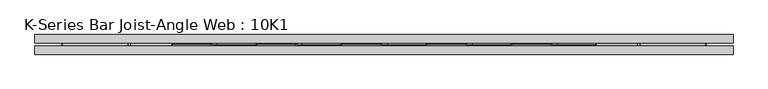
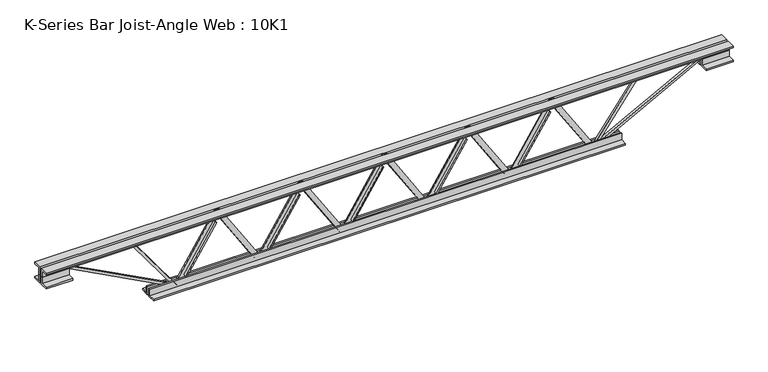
"""IFC4 building model written with IfcOpenShell, lengths in millimetres: beam geometry, K-Series Bar Joist-Angle Web : 10K1."""

from ifc_helpers import new_model, si_unit, frame, origin, place, context, project, spatial, polyline, outline, extrude, faceted_brep, source, transform, mapped, element, save


def k_series_bar_joist_angle_web_10k1_3bfde562(model_context):
    return source(origin(), model_context, "Body", "SolidModel", [
        extrude(outline(polyline([(-4.7625, 4.7625), (-4.7625, 0.0), (-17.4625, 0.0), (-17.4625, 4.7625), (-4.7625, 4.7625)])), frame((439.6388684, 0.0, -88.9), z_axis=(-0.5358887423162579, 0.0, 0.8442886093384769), x_axis=(0.0, -1.0, 0.0)), (0.0, 0.0, 1.0), 210.5914945),
        extrude(outline(polyline([(-123.825, 473.3925), (-104.775, 473.3925), (-104.775, 472.278458), (123.825, 327.180958), (123.825, 309.245), (104.775, 309.245), (104.775, 316.709042), (-123.825, 461.806542), (-123.825, 473.3925)])), frame((0.0, 0.0, 0.0), z_axis=(0.0, 1.0, 0.0), x_axis=(0.0, 0.0, 1.0)), (0.0, 0.0, 1.0), 4.7625),
        faceted_brep([(157.7975, 0.0, -104.775), (157.7975, 0.0, -123.825), (157.7975, -4.7625, -123.825), (157.7975, -4.7625, -104.775), (158.911542, 0.0, -104.775), (304.009042, 0.0, 123.825), (321.945, 0.0, 123.825), (321.945, 0.0, 104.775), (314.480958, 0.0, 104.775), (169.383458, 0.0, -123.825), (169.383458, -4.7625, -123.825), (191.5511316, -4.7625, -88.9), (187.5302071, -4.7625, -86.3478299), (300.3838183, -4.7625, 91.4521701), (304.4047428, -4.7625, 88.9), (314.480958, -4.7625, 104.775), (321.945, -4.7625, 104.775), (321.945, -4.7625, 123.825), (304.009042, -4.7625, 123.825), (158.911542, -4.7625, -104.775), (304.4047428, -17.4625, 88.9), (191.5511316, -17.4625, -88.9), (187.5302071, -17.4625, -86.3478299), (300.3838183, -17.4625, 91.4521701)], [[[0, 1, 2, 3]], [[1, 0, 4, 5, 6, 7, 8, 9]], [[2, 1, 9, 10]], [[3, 2, 10, 11, 12, 13, 14, 15, 16, 17, 18, 19]], [[0, 3, 19, 4]], [[9, 8, 15, 14, 20, 21, 11, 10]], [[5, 4, 19, 18]], [[7, 6, 17, 16]], [[8, 7, 16, 15]], [[6, 5, 18, 17]], [[21, 22, 12, 11]], [[20, 14, 13, 23]], [[22, 21, 20, 23]], [[12, 22, 23, 13]]]),
        extrude(outline(polyline([(-4.7625, 4.7625), (-4.7625, 0.0), (-17.4625, 0.0), (-17.4625, 4.7625), (-4.7625, 4.7625)])), frame((124.0438684, 0.0, -88.9), z_axis=(-0.5358887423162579, 0.0, 0.8442886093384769), x_axis=(0.0, -1.0, 0.0)), (0.0, 0.0, 1.0), 210.5914945),
        extrude(outline(polyline([(-123.825, 157.7975), (-104.775, 157.7975), (-104.775, 156.683458), (123.825, 11.585958), (123.825, -6.35), (104.775, -6.35), (104.775, 1.114042), (-123.825, 146.211542), (-123.825, 157.7975)])), frame((0.0, 0.0, 0.0), z_axis=(0.0, 1.0, 0.0), x_axis=(0.0, 0.0, 1.0)), (0.0, 0.0, 1.0), 4.7625),
        faceted_brep([(-157.7975, 0.0, -104.775), (-157.7975, 0.0, -123.825), (-157.7975, -4.7625, -123.825), (-157.7975, -4.7625, -104.775), (-156.683458, 0.0, -104.775), (-11.585958, 0.0, 123.825), (6.35, 0.0, 123.825), (6.35, 0.0, 104.775), (-1.114042, 0.0, 104.775), (-146.211542, 0.0, -123.825), (-146.211542, -4.7625, -123.825), (-124.0438684, -4.7625, -88.9), (-128.0647929, -4.7625, -86.3478299), (-15.2111817, -4.7625, 91.4521701), (-11.1902572, -4.7625, 88.9), (-1.114042, -4.7625, 104.775), (6.35, -4.7625, 104.775), (6.35, -4.7625, 123.825), (-11.585958, -4.7625, 123.825), (-156.683458, -4.7625, -104.775), (-11.1902572, -17.4625, 88.9), (-124.0438684, -17.4625, -88.9), (-128.0647929, -17.4625, -86.3478299), (-15.2111817, -17.4625, 91.4521701)], [[[0, 1, 2, 3]], [[1, 0, 4, 5, 6, 7, 8, 9]], [[2, 1, 9, 10]], [[3, 2, 10, 11, 12, 13, 14, 15, 16, 17, 18, 19]], [[0, 3, 19, 4]], [[9, 8, 15, 14, 20, 21, 11, 10]], [[5, 4, 19, 18]], [[7, 6, 17, 16]], [[8, 7, 16, 15]], [[6, 5, 18, 17]], [[21, 22, 12, 11]], [[20, 14, 13, 23]], [[22, 21, 20, 23]], [[12, 22, 23, 13]]]),
        extrude(outline(polyline([(-4.7625, 4.7625), (-4.7625, 0.0), (-17.4625, 0.0), (-17.4625, 4.7625), (-4.7625, 4.7625)])), frame((-191.5511316, 0.0, -88.9), z_axis=(-0.5358887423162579, 0.0, 0.8442886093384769), x_axis=(0.0, -1.0, 0.0)), (0.0, 0.0, 1.0), 210.5914945),
        extrude(outline(polyline([(-123.825, -157.7975), (-104.775, -157.7975), (-104.775, -158.911542), (123.825, -304.009042), (123.825, -321.945), (104.775, -321.945), (104.775, -314.480958), (-123.825, -169.383458), (-123.825, -157.7975)])), frame((0.0, 0.0, 0.0), z_axis=(0.0, 1.0, 0.0), x_axis=(0.0, 0.0, 1.0)), (0.0, 0.0, 1.0), 4.7625),
        faceted_brep([(-473.3925, 0.0, -104.775), (-473.3925, 0.0, -123.825), (-473.3925, -4.7625, -123.825), (-473.3925, -4.7625, -104.775), (-472.278458, 0.0, -104.775), (-327.180958, 0.0, 123.825), (-309.245, 0.0, 123.825), (-309.245, 0.0, 104.775), (-316.709042, 0.0, 104.775), (-461.806542, 0.0, -123.825), (-461.806542, -4.7625, -123.825), (-439.6388684, -4.7625, -88.9), (-443.6597929, -4.7625, -86.3478299), (-330.8061817, -4.7625, 91.4521701), (-326.7852572, -4.7625, 88.9), (-316.709042, -4.7625, 104.775), (-309.245, -4.7625, 104.775), (-309.245, -4.7625, 123.825), (-327.180958, -4.7625, 123.825), (-472.278458, -4.7625, -104.775), (-326.7852572, -17.4625, 88.9), (-439.6388684, -17.4625, -88.9), (-443.6597929, -17.4625, -86.3478299), (-330.8061817, -17.4625, 91.4521701)], [[[0, 1, 2, 3]], [[1, 0, 4, 5, 6, 7, 8, 9]], [[2, 1, 9, 10]], [[3, 2, 10, 11, 12, 13, 14, 15, 16, 17, 18, 19]], [[0, 3, 19, 4]], [[9, 8, 15, 14, 20, 21, 11, 10]], [[5, 4, 19, 18]], [[7, 6, 17, 16]], [[8, 7, 16, 15]], [[6, 5, 18, 17]], [[21, 22, 12, 11]], [[20, 14, 13, 23]], [[22, 21, 20, 23]], [[12, 22, 23, 13]]]),
        extrude(outline(polyline([(-4.7625, 4.7625), (-4.7625, 0.0), (-17.4625, 0.0), (-17.4625, 4.7625), (-4.7625, 4.7625)])), frame((755.2338684, 0.0, -88.9), z_axis=(-0.5358887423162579, 0.0, 0.8442886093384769), x_axis=(0.0, -1.0, 0.0)), (0.0, 0.0, 1.0), 210.5914945),
        extrude(outline(polyline([(-123.825, 788.9875), (-104.775, 788.9875), (-104.775, 787.873458), (123.825, 642.775958), (123.825, 624.84), (104.775, 624.84), (104.775, 632.304042), (-123.825, 777.401542), (-123.825, 788.9875)])), frame((0.0, 0.0, 0.0), z_axis=(0.0, 1.0, 0.0), x_axis=(0.0, 0.0, 1.0)), (0.0, 0.0, 1.0), 4.7625),
        faceted_brep([(473.3925, 0.0, -104.775), (473.3925, 0.0, -123.825), (473.3925, -4.7625, -123.825), (473.3925, -4.7625, -104.775), (474.506542, 0.0, -104.775), (619.604042, 0.0, 123.825), (637.54, 0.0, 123.825), (637.54, 0.0, 104.775), (630.075958, 0.0, 104.775), (484.978458, 0.0, -123.825), (484.978458, -4.7625, -123.825), (507.1461316, -4.7625, -88.9), (503.1252071, -4.7625, -86.3478299), (615.9788183, -4.7625, 91.4521701), (619.9997428, -4.7625, 88.9), (630.075958, -4.7625, 104.775), (637.54, -4.7625, 104.775), (637.54, -4.7625, 123.825), (619.604042, -4.7625, 123.825), (474.506542, -4.7625, -104.775), (619.9997428, -17.4625, 88.9), (507.1461316, -17.4625, -88.9), (503.1252071, -17.4625, -86.3478299), (615.9788183, -17.4625, 91.4521701)], [[[0, 1, 2, 3]], [[1, 0, 4, 5, 6, 7, 8, 9]], [[2, 1, 9, 10]], [[3, 2, 10, 11, 12, 13, 14, 15, 16, 17, 18, 19]], [[0, 3, 19, 4]], [[9, 8, 15, 14, 20, 21, 11, 10]], [[5, 4, 19, 18]], [[7, 6, 17, 16]], [[8, 7, 16, 15]], [[6, 5, 18, 17]], [[21, 22, 12, 11]], [[20, 14, 13, 23]], [[22, 21, 20, 23]], [[12, 22, 23, 13]]]),
        extrude(outline(polyline([(-4.7625, 4.7625), (-4.7625, 0.0), (-17.4625, 0.0), (-17.4625, 4.7625), (-4.7625, 4.7625)])), frame((-507.1461316, 0.0, -88.9), z_axis=(-0.5358887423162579, 0.0, 0.8442886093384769), x_axis=(0.0, -1.0, 0.0)), (0.0, 0.0, 1.0), 210.5914945),
        extrude(outline(polyline([(-123.825, -473.3925), (-104.775, -473.3925), (-104.775, -474.506542), (123.825, -619.604042), (123.825, -637.54), (104.775, -637.54), (104.775, -630.075958), (-123.825, -484.978458), (-123.825, -473.3925)])), frame((0.0, 0.0, 0.0), z_axis=(0.0, 1.0, 0.0), x_axis=(0.0, 0.0, 1.0)), (0.0, 0.0, 1.0), 4.7625),
        faceted_brep([(-788.9875, 0.0, -104.775), (-788.9875, 0.0, -123.825), (-788.9875, -4.7625, -123.825), (-788.9875, -4.7625, -104.775), (-787.873458, 0.0, -104.775), (-642.775958, 0.0, 123.825), (-624.84, 0.0, 123.825), (-624.84, 0.0, 104.775), (-632.304042, 0.0, 104.775), (-777.401542, 0.0, -123.825), (-777.401542, -4.7625, -123.825), (-755.2338684, -4.7625, -88.9), (-759.2547929, -4.7625, -86.3478299), (-646.4011817, -4.7625, 91.4521701), (-642.3802572, -4.7625, 88.9), (-632.304042, -4.7625, 104.775), (-624.84, -4.7625, 104.775), (-624.84, -4.7625, 123.825), (-642.775958, -4.7625, 123.825), (-787.873458, -4.7625, -104.775), (-642.3802572, -17.4625, 88.9), (-755.2338684, -17.4625, -88.9), (-759.2547929, -17.4625, -86.3478299), (-646.4011817, -17.4625, 91.4521701)], [[[0, 1, 2, 3]], [[1, 0, 4, 5, 6, 7, 8, 9]], [[2, 1, 9, 10]], [[3, 2, 10, 11, 12, 13, 14, 15, 16, 17, 18, 19]], [[0, 3, 19, 4]], [[9, 8, 15, 14, 20, 21, 11, 10]], [[5, 4, 19, 18]], [[7, 6, 17, 16]], [[8, 7, 16, 15]], [[6, 5, 18, 17]], [[21, 22, 12, 11]], [[20, 14, 13, 23]], [[22, 21, 20, 23]], [[12, 22, 23, 13]]]),
        extrude(outline(polyline([(4.7625, 127.0), (36.5125, 127.0), (36.5125, 120.65), (11.1125, 120.65), (11.1125, 95.25), (4.7625, 95.25), (4.7625, 127.0)])), frame((-1296.9875, 0.0, 0.0), z_axis=(1.0, 0.0, 0.0), x_axis=(0.0, 1.0, 0.0)), (0.0, 0.0, 1.0), 2593.975),
        extrude(outline(polyline([(-4.7625, 127.0), (-4.7625, 95.25), (-11.1125, 95.25), (-11.1125, 120.65), (-36.5125, 120.65), (-36.5125, 127.0), (-4.7625, 127.0)])), frame((-1296.9875, 0.0, 0.0), z_axis=(1.0, 0.0, 0.0), x_axis=(0.0, 1.0, 0.0)), (0.0, 0.0, 1.0), 2593.975),
        extrude(outline(polyline([(4.7625, -127.0), (4.7625, -95.25), (11.1125, -95.25), (11.1125, -120.65), (36.5125, -120.65), (36.5125, -127.0), (4.7625, -127.0)])), frame((-890.5875, 0.0, 0.0), z_axis=(1.0, 0.0, 0.0), x_axis=(0.0, 1.0, 0.0)), (0.0, 0.0, 1.0), 1781.175),
        extrude(outline(polyline([(-4.7625, -127.0), (-36.5125, -127.0), (-36.5125, -120.65), (-11.1125, -120.65), (-11.1125, -95.25), (-4.7625, -95.25), (-4.7625, -127.0)])), frame((-890.5875, 0.0, 0.0), z_axis=(1.0, 0.0, 0.0), x_axis=(0.0, 1.0, 0.0)), (0.0, 0.0, 1.0), 1781.175),
        extrude(outline(polyline([(4.7625, 63.5), (4.7625, 95.25), (11.1125, 95.25), (11.1125, 69.85), (36.5125, 69.85), (36.5125, 63.5), (4.7625, 63.5)])), frame((1195.3875, 0.0, 0.0), z_axis=(1.0, 0.0, 0.0), x_axis=(0.0, 1.0, 0.0)), (0.0, 0.0, 1.0), 101.6),
        extrude(outline(polyline([(-4.7625, 63.5), (-36.5125, 63.5), (-36.5125, 69.85), (-11.1125, 69.85), (-11.1125, 95.25), (-4.7625, 95.25), (-4.7625, 63.5)])), frame((1195.3875, 0.0, 0.0), z_axis=(1.0, 0.0, 0.0), x_axis=(0.0, 1.0, 0.0)), (0.0, 0.0, 1.0), 101.6),
        extrude(outline(polyline([(-4.7625, 63.5), (-36.5125, 63.5), (-36.5125, 69.85), (-11.1125, 69.85), (-11.1125, 95.25), (-4.7625, 95.25), (-4.7625, 63.5)])), frame((-1296.9875, 0.0, 0.0), z_axis=(1.0, 0.0, 0.0), x_axis=(0.0, 1.0, 0.0)), (0.0, 0.0, 1.0), 101.6),
        extrude(outline(polyline([(36.5125, 63.5), (4.7625, 63.5), (4.7625, 95.25), (11.1125, 95.25), (11.1125, 69.85), (36.5125, 69.85), (36.5125, 63.5)])), frame((-1296.9875, 0.0, 0.0), z_axis=(1.0, 0.0, 0.0), x_axis=(0.0, 1.0, 0.0)), (0.0, 0.0, 1.0), 101.6),
        extrude(outline(polyline([(4.7625, 4.7625), (4.7625, -4.7625), (-4.7625, -4.7625), (-4.7625, 4.7625), (4.7625, 4.7625)])), frame((-788.9875, 0.0, -120.65), z_axis=(-0.5900761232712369, 0.0, 0.8073476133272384), x_axis=(0.0, -1.0, 0.0)), (0.0, 0.0, 1.0), 267.4188868),
        extrude(outline(polyline([(4.7625, 4.7625), (4.7625, -4.7625), (-4.7625, -4.7625), (-4.7625, 4.7625), (4.7625, 4.7625)])), frame((788.9875, 0.0, -120.65), z_axis=(0.5900761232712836, 0.0, 0.8073476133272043), x_axis=(0.0, -1.0, 0.0)), (0.0, 0.0, 1.0), 267.4188868),
        extrude(outline(polyline([(0.0, -9.525), (0.0, 0.0), (460.1888417, 0.0), (460.1888417, -9.525), (0.0, -9.525)])), frame((-1197.6218518, 4.7625, 91.0441614), z_axis=(0.46915522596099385, 0.0, 0.883115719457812), x_axis=(0.883115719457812, 0.0, -0.46915522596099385)), (0.0, 0.0, 1.0), 9.525),
        extrude(outline(polyline([(0.0, -9.525), (0.0, 0.0), (460.1888417, 0.0), (460.1888417, -9.525), (0.0, -9.525)])), frame((1197.6218518, -4.7625, 91.0441614), z_axis=(-0.4691552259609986, 0.0, 0.8831157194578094), x_axis=(-0.8831157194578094, 0.0, -0.4691552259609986)), (0.0, 0.0, 1.0), 9.525),
    ])


if __name__ == "__main__":
    model = new_model("IFC4")
    model_context = context("Model", 3, world=origin())
    ifc_project = project(units=[si_unit("LENGTHUNIT", "METRE", prefix="MILLI")], contexts=[model_context])
    site = spatial("IfcSite", under=ifc_project)
    building = spatial("IfcBuilding", under=site)
    placement = place(None, origin())
    k_series_bar_joist_angle_web_10k1_shape = k_series_bar_joist_angle_web_10k1_3bfde562(model_context)
    element("IfcBeam", 1, ObjectType="K-Series Bar Joist-Angle Web : 10K1", at=placement, inside=building, context=model_context, shape_type="MappedRepresentation", body=[
        mapped(k_series_bar_joist_angle_web_10k1_shape, transform((0.0, 0.0, 0.0), x_axis=(1.0, 0.0, 0.0), y_axis=(0.0, 1.0, 0.0), z_axis=(0.0, 0.0, 1.0))),
    ])
    save(model, "model.ifc")
